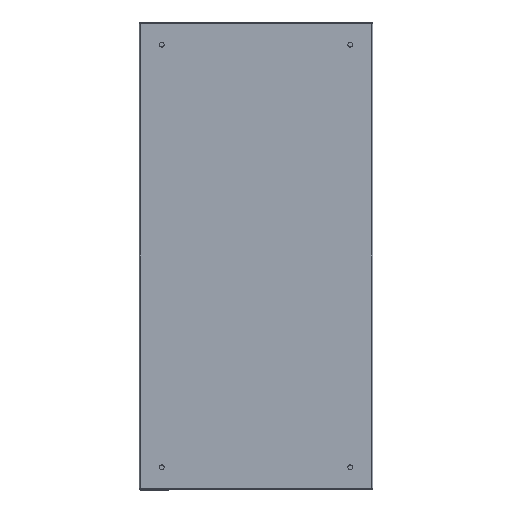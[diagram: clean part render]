
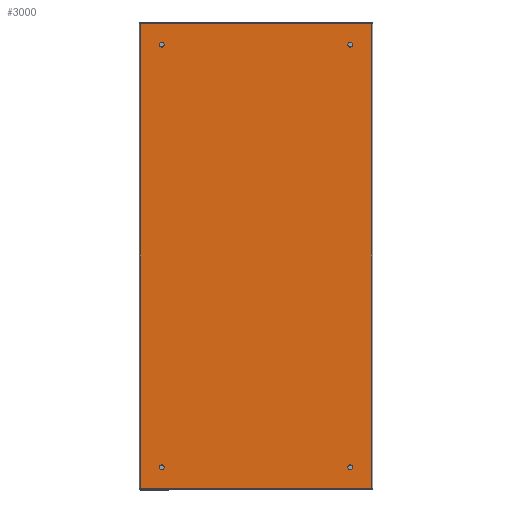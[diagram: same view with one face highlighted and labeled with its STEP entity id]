
A CAD part, front view. The second image highlights one B-rep face of the part: STEP entity #3000.
In plain terms, the highlighted planar face has unit normal (0, -1, 0).
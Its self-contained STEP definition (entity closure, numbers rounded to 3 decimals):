
#125 = EDGE_CURVE ( 'NONE', #7806, #1773, #6105, .T. ) ;
#128 = CARTESIAN_POINT ( 'NONE',  ( -153.1, 0., -307.4 ) ) ;
#208 = ORIENTED_EDGE ( 'NONE', *, *, #7228, .F. ) ;
#321 = DIRECTION ( 'NONE',  ( 1., 0., 0. ) ) ;
#517 = FACE_OUTER_BOUND ( 'NONE', #9837, .T. ) ;
#555 = CARTESIAN_POINT ( 'NONE',  ( 125., 0., -280. ) ) ;
#1072 = ORIENTED_EDGE ( 'NONE', *, *, #10565, .T. ) ;
#1108 = DIRECTION ( 'NONE',  ( 0., 0., 1. ) ) ;
#1134 = DIRECTION ( 'NONE',  ( -1., 0., 0. ) ) ;
#1147 = CARTESIAN_POINT ( 'NONE',  ( 128.25, 0., 280. ) ) ;
#1291 = VERTEX_POINT ( 'NONE', #2289 ) ;
#1335 = EDGE_CURVE ( 'NONE', #10249, #1291, #1616, .T. ) ;
#1391 = VERTEX_POINT ( 'NONE', #10903 ) ;
#1466 = AXIS2_PLACEMENT_3D ( 'NONE', #6787, #10632, #321 ) ;
#1515 = ORIENTED_EDGE ( 'NONE', *, *, #6192, .T. ) ;
#1616 = LINE ( 'NONE', #4242, #9595 ) ;
#1648 = CARTESIAN_POINT ( 'NONE',  ( -125., 0., -280. ) ) ;
#1773 = VERTEX_POINT ( 'NONE', #4078 ) ;
#1844 = LINE ( 'NONE', #9446, #2287 ) ;
#1880 = CIRCLE ( 'NONE', #10316, 3.25 ) ;
#2001 = CARTESIAN_POINT ( 'NONE',  ( 125., 0., -280. ) ) ;
#2267 = DIRECTION ( 'NONE',  ( 0., 0., 1. ) ) ;
#2287 = VECTOR ( 'NONE', #1134, 1000. ) ;
#2289 = CARTESIAN_POINT ( 'NONE',  ( 153.1, 0., -307.4 ) ) ;
#2302 = FACE_BOUND ( 'NONE', #8350, .T. ) ;
#2363 = VECTOR ( 'NONE', #2267, 1000. ) ;
#2386 = DIRECTION ( 'NONE',  ( 0., 1., 0. ) ) ;
#2447 = EDGE_LOOP ( 'NONE', ( #1072, #9471 ) ) ;
#2601 = DIRECTION ( 'NONE',  ( 0., 1., 0. ) ) ;
#2606 = CIRCLE ( 'NONE', #3198, 3.25 ) ;
#2720 = VERTEX_POINT ( 'NONE', #8166 ) ;
#2849 = EDGE_LOOP ( 'NONE', ( #11738, #9429 ) ) ;
#2900 = DIRECTION ( 'NONE',  ( -1., 0., 0. ) ) ;
#3000 = ADVANCED_FACE ( 'NONE', ( #517, #2302, #3893, #5485, #9693 ), #7691, .T. ) ;
#3078 = ORIENTED_EDGE ( 'NONE', *, *, #3119, .T. ) ;
#3119 = EDGE_CURVE ( 'NONE', #3463, #9189, #5332, .T. ) ;
#3132 = DIRECTION ( 'NONE',  ( -1., 0., 0. ) ) ;
#3198 = AXIS2_PLACEMENT_3D ( 'NONE', #10021, #2601, #4466 ) ;
#3237 = DIRECTION ( 'NONE',  ( 0., 1., 0. ) ) ;
#3463 = VERTEX_POINT ( 'NONE', #9217 ) ;
#3751 = CARTESIAN_POINT ( 'NONE',  ( -121.75, 0., 280. ) ) ;
#3893 = FACE_BOUND ( 'NONE', #2447, .T. ) ;
#4028 = CIRCLE ( 'NONE', #10949, 3.25 ) ;
#4032 = VERTEX_POINT ( 'NONE', #5895 ) ;
#4078 = CARTESIAN_POINT ( 'NONE',  ( 128.25, 0., -280. ) ) ;
#4110 = CARTESIAN_POINT ( 'NONE',  ( 125., 0., 280. ) ) ;
#4205 = AXIS2_PLACEMENT_3D ( 'NONE', #555, #2386, #6187 ) ;
#4242 = CARTESIAN_POINT ( 'NONE',  ( -153.1, 0., -307.4 ) ) ;
#4466 = DIRECTION ( 'NONE',  ( 1., 0., 0. ) ) ;
#4725 = AXIS2_PLACEMENT_3D ( 'NONE', #4110, #7829, #10615 ) ;
#4767 = EDGE_CURVE ( 'NONE', #4032, #6687, #10711, .T. ) ;
#4856 = CARTESIAN_POINT ( 'NONE',  ( 153.1, 0., 307.4 ) ) ;
#5030 = CARTESIAN_POINT ( 'NONE',  ( -121.75, 0., -280. ) ) ;
#5285 = ORIENTED_EDGE ( 'NONE', *, *, #1335, .T. ) ;
#5332 = CIRCLE ( 'NONE', #1466, 3.25 ) ;
#5342 = AXIS2_PLACEMENT_3D ( 'NONE', #128, #11342, #2900 ) ;
#5485 = FACE_BOUND ( 'NONE', #2849, .T. ) ;
#5877 = ORIENTED_EDGE ( 'NONE', *, *, #125, .T. ) ;
#5895 = CARTESIAN_POINT ( 'NONE',  ( 121.75, 0., 280. ) ) ;
#6003 = EDGE_CURVE ( 'NONE', #9189, #3463, #6041, .T. ) ;
#6041 = CIRCLE ( 'NONE', #11080, 3.25 ) ;
#6105 = CIRCLE ( 'NONE', #4205, 3.25 ) ;
#6187 = DIRECTION ( 'NONE',  ( -1., 0., 0. ) ) ;
#6192 = EDGE_CURVE ( 'NONE', #1291, #10572, #9341, .T. ) ;
#6418 = LINE ( 'NONE', #8707, #2363 ) ;
#6555 = CARTESIAN_POINT ( 'NONE',  ( 125., 0., 280. ) ) ;
#6673 = EDGE_LOOP ( 'NONE', ( #5877, #7213 ) ) ;
#6687 = VERTEX_POINT ( 'NONE', #1147 ) ;
#6787 = CARTESIAN_POINT ( 'NONE',  ( -125., 0., -280. ) ) ;
#6935 = ORIENTED_EDGE ( 'NONE', *, *, #6003, .T. ) ;
#7082 = AXIS2_PLACEMENT_3D ( 'NONE', #8613, #3237, #10649 ) ;
#7119 = CIRCLE ( 'NONE', #7082, 3.25 ) ;
#7213 = ORIENTED_EDGE ( 'NONE', *, *, #10810, .T. ) ;
#7228 = EDGE_CURVE ( 'NONE', #10249, #2720, #6418, .T. ) ;
#7686 = CARTESIAN_POINT ( 'NONE',  ( 153.1, 0., -307.4 ) ) ;
#7691 = PLANE ( 'NONE',  #5342 ) ;
#7806 = VERTEX_POINT ( 'NONE', #8444 ) ;
#7829 = DIRECTION ( 'NONE',  ( 0., 1., 0. ) ) ;
#7897 = DIRECTION ( 'NONE',  ( 1., 0., 0. ) ) ;
#8161 = DIRECTION ( 'NONE',  ( 0., 1., 0. ) ) ;
#8166 = CARTESIAN_POINT ( 'NONE',  ( -153.1, 0., 307.4 ) ) ;
#8350 = EDGE_LOOP ( 'NONE', ( #6935, #3078 ) ) ;
#8444 = CARTESIAN_POINT ( 'NONE',  ( 121.75, 0., -280. ) ) ;
#8613 = CARTESIAN_POINT ( 'NONE',  ( -125., 0., 280. ) ) ;
#8707 = CARTESIAN_POINT ( 'NONE',  ( -153.1, 0., -307.4 ) ) ;
#9189 = VERTEX_POINT ( 'NONE', #5030 ) ;
#9217 = CARTESIAN_POINT ( 'NONE',  ( -128.25, 0., -280. ) ) ;
#9341 = LINE ( 'NONE', #7686, #11351 ) ;
#9428 = DIRECTION ( 'NONE',  ( -1., 0., 0. ) ) ;
#9429 = ORIENTED_EDGE ( 'NONE', *, *, #11938, .T. ) ;
#9446 = CARTESIAN_POINT ( 'NONE',  ( 153.1, 0., 307.4 ) ) ;
#9471 = ORIENTED_EDGE ( 'NONE', *, *, #10968, .T. ) ;
#9509 = DIRECTION ( 'NONE',  ( 0., 1., 0. ) ) ;
#9595 = VECTOR ( 'NONE', #7897, 1000. ) ;
#9693 = FACE_BOUND ( 'NONE', #6673, .T. ) ;
#9837 = EDGE_LOOP ( 'NONE', ( #5285, #1515, #11820, #208 ) ) ;
#10021 = CARTESIAN_POINT ( 'NONE',  ( -125., 0., 280. ) ) ;
#10249 = VERTEX_POINT ( 'NONE', #11461 ) ;
#10316 = AXIS2_PLACEMENT_3D ( 'NONE', #2001, #9509, #9428 ) ;
#10558 = DIRECTION ( 'NONE',  ( 0., 1., 0. ) ) ;
#10565 = EDGE_CURVE ( 'NONE', #11917, #1391, #7119, .T. ) ;
#10572 = VERTEX_POINT ( 'NONE', #4856 ) ;
#10615 = DIRECTION ( 'NONE',  ( -1., 0., 0. ) ) ;
#10632 = DIRECTION ( 'NONE',  ( 0., 1., 0. ) ) ;
#10649 = DIRECTION ( 'NONE',  ( 1., 0., 0. ) ) ;
#10711 = CIRCLE ( 'NONE', #4725, 3.25 ) ;
#10810 = EDGE_CURVE ( 'NONE', #1773, #7806, #1880, .T. ) ;
#10830 = DIRECTION ( 'NONE',  ( 1., 0., 0. ) ) ;
#10903 = CARTESIAN_POINT ( 'NONE',  ( -128.25, 0., 280. ) ) ;
#10949 = AXIS2_PLACEMENT_3D ( 'NONE', #6555, #10558, #3132 ) ;
#10968 = EDGE_CURVE ( 'NONE', #1391, #11917, #2606, .T. ) ;
#11080 = AXIS2_PLACEMENT_3D ( 'NONE', #1648, #8161, #10830 ) ;
#11342 = DIRECTION ( 'NONE',  ( 0., -1., 0. ) ) ;
#11351 = VECTOR ( 'NONE', #1108, 1000. ) ;
#11461 = CARTESIAN_POINT ( 'NONE',  ( -153.1, 0., -307.4 ) ) ;
#11707 = EDGE_CURVE ( 'NONE', #10572, #2720, #1844, .T. ) ;
#11738 = ORIENTED_EDGE ( 'NONE', *, *, #4767, .T. ) ;
#11820 = ORIENTED_EDGE ( 'NONE', *, *, #11707, .T. ) ;
#11917 = VERTEX_POINT ( 'NONE', #3751 ) ;
#11938 = EDGE_CURVE ( 'NONE', #6687, #4032, #4028, .T. ) ;
